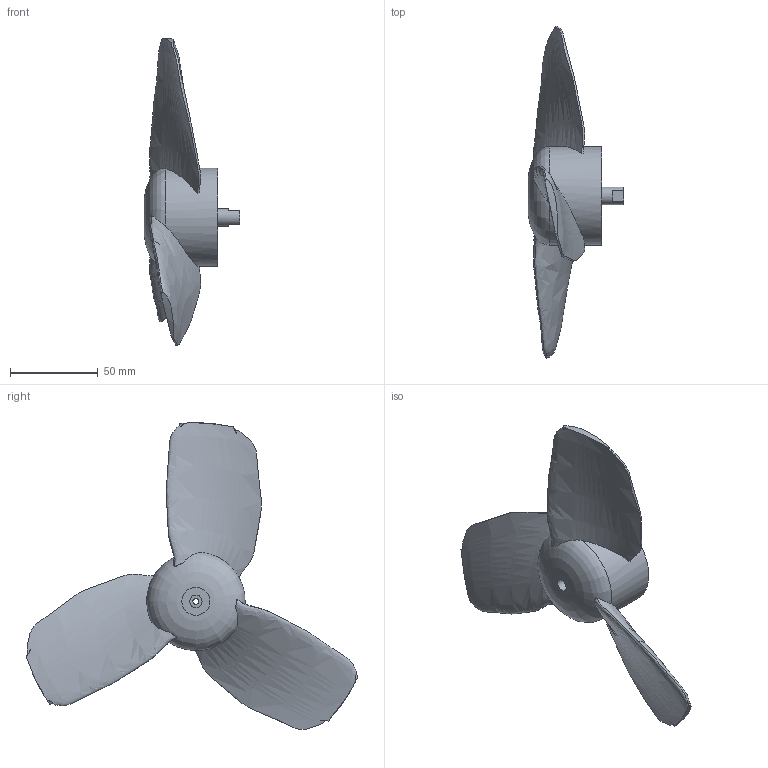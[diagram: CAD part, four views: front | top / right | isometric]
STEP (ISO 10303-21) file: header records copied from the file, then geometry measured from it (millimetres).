
FILE_DESCRIPTION(('Open CASCADE Model'),'2;1');
FILE_NAME('Open CASCADE Shape Model','2026-11-03T01:23:15',('Author'),( 'Open CASCADE'),'Open CASCADE STEP processor 7.9','Open CASCADE 7.9' ,'Unknown');
FILE_SCHEMA(('AUTOMOTIVE_DESIGN { 1 0 10303 214 1 1 1 1 }'));
Length unit declared in the file: millimetre
Products named in the file (1): Open CASCADE STEP translator 7.9 1
Bounding box: 54.45 x 188.91 x 174.39 mm (x, y, z)
Volume: 129127.3 mm3; surface area: 41236.2 mm2
Topology: 1 solids, 1 shells, 31 faces, 79 edges, 51 vertices
Faces by surface type: bspline 15, plane 9, cylinder 6, revolution 1
Full cylindrical faces by diameter (mm): 3.4 x1, 7 x1, 10 x1, 42 x1, 56 x1
Entity records: 24969 total; most frequent: CARTESIAN_POINT 23675, ORIENTED_EDGE 154, PCURVE 154, DEFINITIONAL_REPRESENTATION 154, DIRECTION 153, B_SPLINE_CURVE_WITH_KNOTS 114, EDGE_CURVE 77, LINE 77
